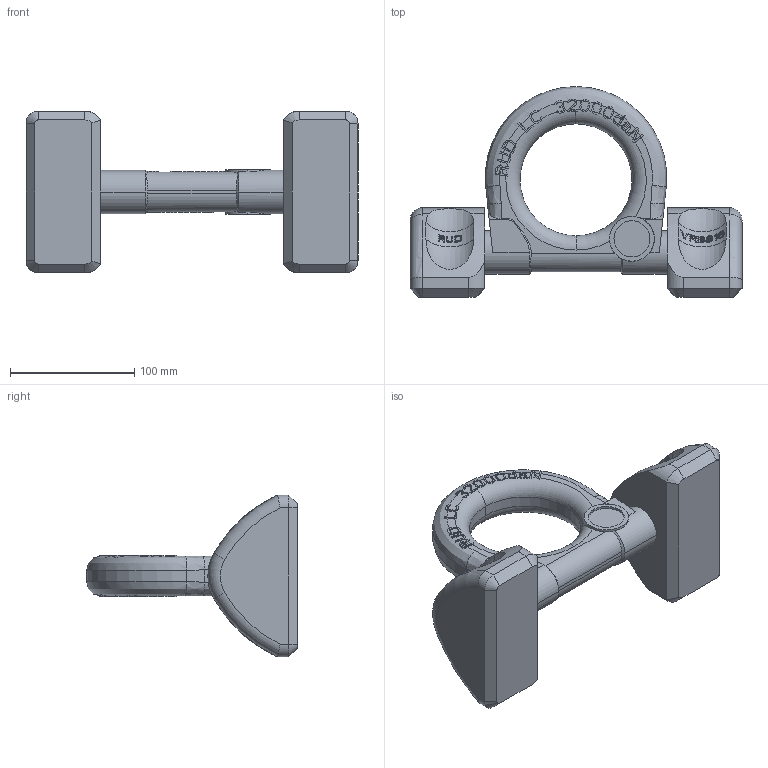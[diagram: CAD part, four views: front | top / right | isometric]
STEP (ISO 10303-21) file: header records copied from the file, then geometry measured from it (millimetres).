
FILE_DESCRIPTION((''),'2;1');
FILE_NAME('001-M34051-P1_ASM','2017-09-27T',('Marcel.Bux'),(''),'PRO/ENGINEER BY PARAMETRIC TECHNOLOGY CORPORATION, 2011490','PRO/ENGINEER BY PARAMETRIC TECHNOLOGY CORPORATION, 2011490','');
FILE_SCHEMA(('CONFIG_CONTROL_DESIGN'));
Products named in the file (3): 001-M32174-P-20; 001-M33365-P1; 001-M34051-P1_ASM
Assembly tree (3 placements, depth 2):
  001-M34051-P1_ASM
    001-M32174-P-20
    001-M33365-P1  x2
Bounding box: 267 x 169.5 x 130 mm (x, y, z)
Volume: 1136599.3 mm3; surface area: 123374.2 mm2
Topology: 3 solids, 3 shells, 1694 faces, 4890 edges, 3244 vertices
Faces by surface type: plane 1539, torus 74, cylinder 39, bspline 28, cone 14
Entity records: 55833 total; most frequent: CARTESIAN_POINT 21528, ORIENTED_EDGE 7996, DIRECTION 5795, EDGE_CURVE 3998, VECTOR 2681, LINE 2681, VERTEX_POINT 2656, AXIS2_PLACEMENT_3D 1557
